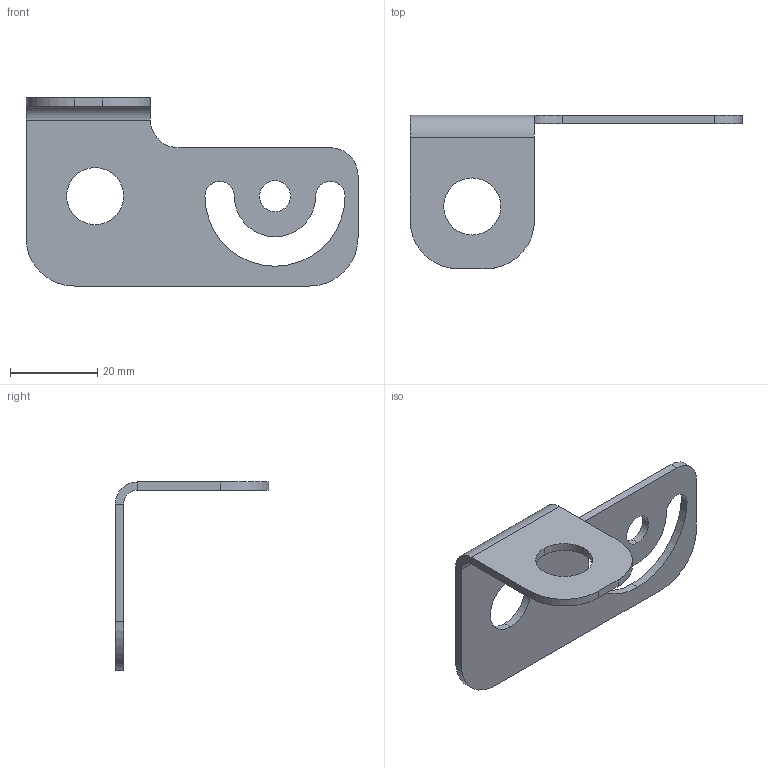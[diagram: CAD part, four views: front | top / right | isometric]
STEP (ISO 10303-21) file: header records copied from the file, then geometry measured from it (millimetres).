
FILE_DESCRIPTION (( 'STEP AP214' ), '1' );
FILE_NAME ('SLM-SB-12.STEP', '2018-11-06T11:57:33', ( '' ), ( '' ), 'SwSTEP 2.0', 'SolidWorks 2018', '' );
FILE_SCHEMA (( 'AUTOMOTIVE_DESIGN' ));
Length unit declared in the file: inch
Products named in the file (2): SLM-SB-12
Bounding box: 76.2 x 35.23 x 43.17 mm (x, y, z)
Volume: 5553.3 mm3; surface area: 6770.3 mm2
Topology: 1 solids, 1 shells, 107 faces, 1081 edges, 1050 vertices
Faces by surface type: plane 87, cylinder 20
Entity records: 11362 total; most frequent: CARTESIAN_POINT 2842, ORIENTED_EDGE 2162, DIRECTION 1315, EDGE_CURVE 1081, VERTEX_POINT 1050, LINE 975, VECTOR 975, EDGE_LOOP 189
